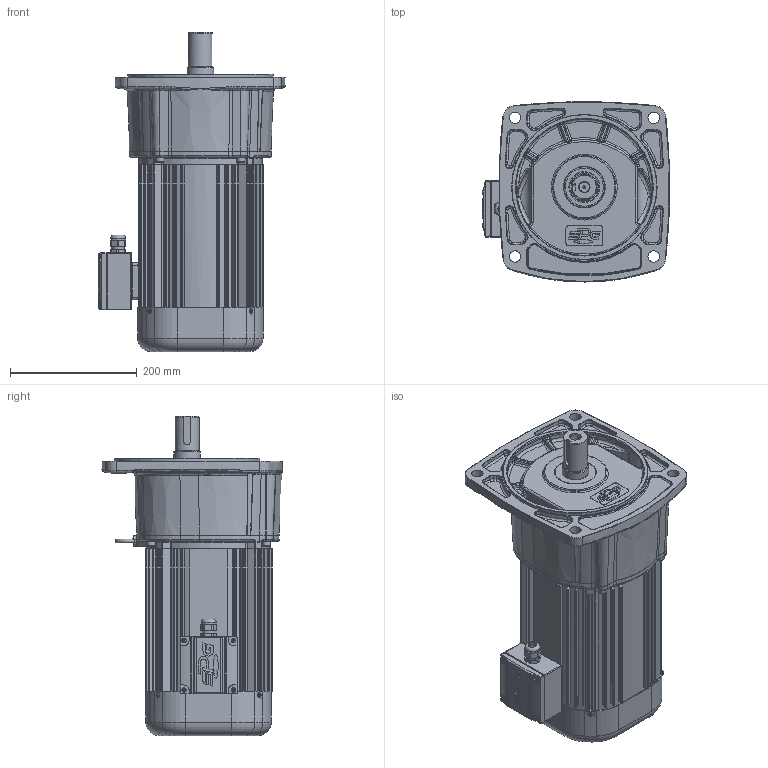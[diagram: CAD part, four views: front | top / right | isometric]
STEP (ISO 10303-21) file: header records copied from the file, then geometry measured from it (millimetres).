
FILE_DESCRIPTION(/* description */ (''),/* implementation_level */ '2;1');
FILE_NAME(/* name */ 'Z:\동력 3D 파일\PAF40_2.2kW_3D.stp',/* time_stamp */ '2021-11-08T16:21:50+09:00',/* author */ ('jaebok'),/* organization */ (''),/* preprocessor_version */ 'ST-DEVELOPER v18.1',/* originating_system */ 'Autodesk Inventor 2022',/* authorisation */ '');
FILE_SCHEMA (('AUTOMOTIVE_DESIGN { 1 0 10303 214 3 1 1 }'));
Products named in the file (1): 부품27
Bounding box: 295.62 x 284.62 x 504.5 mm (x, y, z)
Volume: 4711061.1 mm3; surface area: 1229251.4 mm2
Topology: 1 solids, 32 shells, 3715 faces, 9294 edges, 5548 vertices
Faces by surface type: plane 1070, bspline 1054, cylinder 878, torus 355, cone 275, sphere 83
Full cylindrical faces by diameter (mm): 2 x1, 3.25 x1, 3.5 x4, 3.6 x4, 4 x21, 5 x13, 6 x5, 6.647 x5, 6.8 x4, 7 x9, 8 x9, 8.8 x4, 9 x4, 10 x1, 12.5 x1, 13 x4, 15 x1, 16 x1, 20 x2, 20.6 x1, 21 x1, 23.5 x1, 23.6 x1, 25 x1, 28 x1, 31 x1, 36 x1, 38 x1, 39.6 x1, 40 x1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
Entity records: 150837 total; most frequent: CARTESIAN_POINT 65681, ORIENTED_EDGE 18200, DIRECTION 15493, EDGE_CURVE 9100, AXIS2_PLACEMENT_3D 6342, VERTEX_POINT 5547, EDGE_LOOP 3951, FACE_OUTER_BOUND 3715
